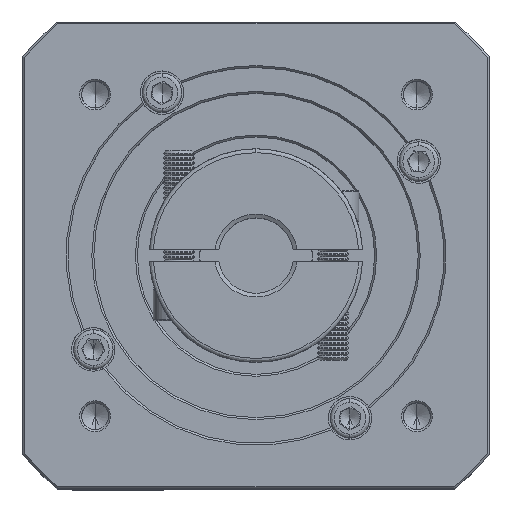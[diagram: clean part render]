
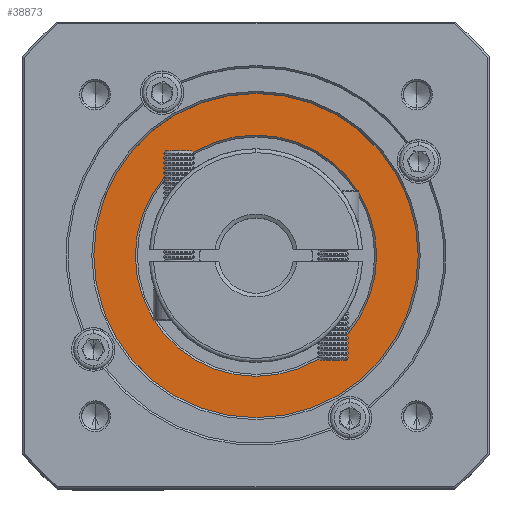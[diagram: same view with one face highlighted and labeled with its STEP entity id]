
A CAD part, top view. The second image highlights one B-rep face of the part: STEP entity #38873.
In plain terms, the highlighted planar face has unit normal (0, 0, 1).
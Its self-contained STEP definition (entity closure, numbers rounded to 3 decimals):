
#3813 = DIRECTION ( 'NONE',  ( 0., 0., -1. ) ) ;
#6690 = ORIENTED_EDGE ( 'NONE', *, *, #9788, .T. ) ;
#9788 = EDGE_CURVE ( 'NONE', #70216, #116159, #55529, .T. ) ;
#10949 = AXIS2_PLACEMENT_3D ( 'NONE', #96203, #3813, #107912 ) ;
#12591 = DIRECTION ( 'NONE',  ( 0., 0., 1. ) ) ;
#12688 = EDGE_CURVE ( 'NONE', #116159, #70216, #117545, .T. ) ;
#13046 = CARTESIAN_POINT ( 'NONE',  ( 31.036, 35.442, -35.926 ) ) ;
#17844 = CARTESIAN_POINT ( 'NONE',  ( 61.536, 35.442, -35.926 ) ) ;
#18080 = ORIENTED_EDGE ( 'NONE', *, *, #46506, .T. ) ;
#21351 = CARTESIAN_POINT ( 'NONE',  ( 61.536, 35.442, -35.926 ) ) ;
#32907 = FACE_BOUND ( 'NONE', #58036, .T. ) ;
#33008 = EDGE_CURVE ( 'NONE', #107445, #60125, #127811, .T. ) ;
#38273 = CARTESIAN_POINT ( 'NONE',  ( 92.036, 35.442, -35.926 ) ) ;
#38873 = ADVANCED_FACE ( 'NONE', ( #89156, #32907 ), #85492, .T. ) ;
#46506 = EDGE_CURVE ( 'NONE', #60125, #107445, #104151, .T. ) ;
#48147 = DIRECTION ( 'NONE',  ( 0., 0., 1. ) ) ;
#51231 = AXIS2_PLACEMENT_3D ( 'NONE', #21351, #92029, #62409 ) ;
#51883 = AXIS2_PLACEMENT_3D ( 'NONE', #84350, #104720, #106050 ) ;
#55529 = CIRCLE ( 'NONE', #127365, 41. ) ;
#58036 = EDGE_LOOP ( 'NONE', ( #69110, #18080 ) ) ;
#60125 = VERTEX_POINT ( 'NONE', #13046 ) ;
#62409 = DIRECTION ( 'NONE',  ( 1., 0., 0. ) ) ;
#69110 = ORIENTED_EDGE ( 'NONE', *, *, #33008, .T. ) ;
#70216 = VERTEX_POINT ( 'NONE', #102860 ) ;
#74385 = CARTESIAN_POINT ( 'NONE',  ( 61.536, 35.442, -35.926 ) ) ;
#78663 = DIRECTION ( 'NONE',  ( 0., 1., 0. ) ) ;
#83648 = ORIENTED_EDGE ( 'NONE', *, *, #12688, .T. ) ;
#84350 = CARTESIAN_POINT ( 'NONE',  ( 61.536, 35.442, -35.926 ) ) ;
#84610 = DIRECTION ( 'NONE',  ( 0., 1., 0. ) ) ;
#85492 = PLANE ( 'NONE',  #106931 ) ;
#89156 = FACE_OUTER_BOUND ( 'NONE', #114594, .T. ) ;
#92029 = DIRECTION ( 'NONE',  ( 0., 0., -1. ) ) ;
#96203 = CARTESIAN_POINT ( 'NONE',  ( 61.536, 35.442, -35.926 ) ) ;
#102860 = CARTESIAN_POINT ( 'NONE',  ( 61.536, -5.558, -35.926 ) ) ;
#104151 = CIRCLE ( 'NONE', #51231, 30.5 ) ;
#104720 = DIRECTION ( 'NONE',  ( 0., 0., 1. ) ) ;
#106050 = DIRECTION ( 'NONE',  ( 0., 1., 0. ) ) ;
#106931 = AXIS2_PLACEMENT_3D ( 'NONE', #74385, #12591, #84610 ) ;
#107445 = VERTEX_POINT ( 'NONE', #38273 ) ;
#107912 = DIRECTION ( 'NONE',  ( 1., 0., 0. ) ) ;
#110555 = CARTESIAN_POINT ( 'NONE',  ( 61.536, 76.442, -35.926 ) ) ;
#114594 = EDGE_LOOP ( 'NONE', ( #83648, #6690 ) ) ;
#116159 = VERTEX_POINT ( 'NONE', #110555 ) ;
#117545 = CIRCLE ( 'NONE', #51883, 41. ) ;
#127365 = AXIS2_PLACEMENT_3D ( 'NONE', #17844, #48147, #78663 ) ;
#127811 = CIRCLE ( 'NONE', #10949, 30.5 ) ;
